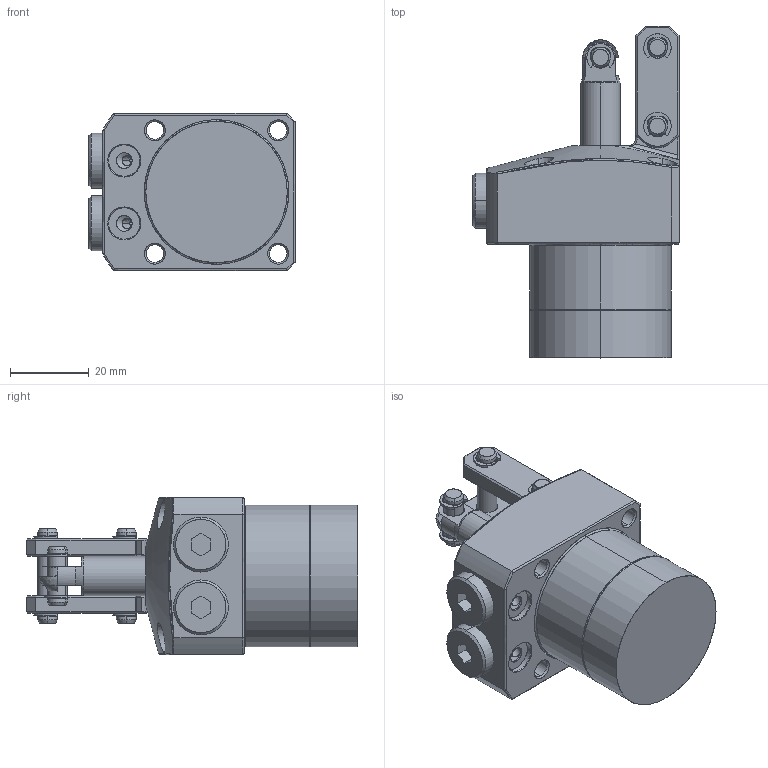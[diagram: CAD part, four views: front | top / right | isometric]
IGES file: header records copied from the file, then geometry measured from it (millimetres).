
Start section: SolidWorks IGES file using analytic representation for surfaces
Global section: file name: D:\abhilash\nijil\cylinder\LKA Series\con v lka\36\cc36\36CC PT\0402-0361.IGS; native system: SolidWorks 2010; preprocessor: SolidWorks 2010; author: nidheesh; date: 130730.103040; units: millimetre
Bounding box: 52.5 x 84.5 x 40 mm (x, y, z)
Surface area: 17883.1 mm2 (no closed solid volume)
Topology: 0 solids, 0 shells, 395 faces, 5036 edges, 5029 vertices
Faces by surface type: bspline 211, revolution 184
